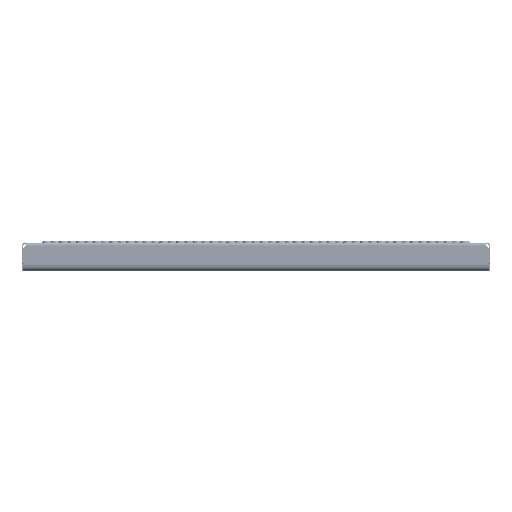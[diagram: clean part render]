
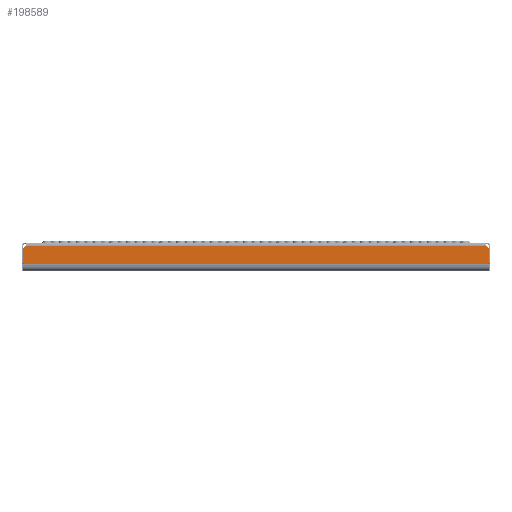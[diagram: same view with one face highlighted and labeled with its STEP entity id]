
A CAD part, top view. The second image highlights one B-rep face of the part: STEP entity #198589.
In plain terms, the highlighted planar face has unit normal (0, 0, 1).
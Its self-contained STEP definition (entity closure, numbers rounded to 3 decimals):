
#9224 = VECTOR ( 'NONE', #49652, 1000. ) ;
#11716 = DIRECTION ( 'NONE',  ( 0., -1., 0. ) ) ;
#13951 = CARTESIAN_POINT ( 'NONE',  ( 347.99, -31.998, 100. ) ) ;
#14254 = VERTEX_POINT ( 'NONE', #13951 ) ;
#24694 = VERTEX_POINT ( 'NONE', #241455 ) ;
#32803 = CARTESIAN_POINT ( 'NONE',  ( -349., -2.288, 100. ) ) ;
#34070 = CARTESIAN_POINT ( 'NONE',  ( -349., -4., 100. ) ) ;
#35543 = CARTESIAN_POINT ( 'NONE',  ( -344.302, -4., 100. ) ) ;
#44762 = CARTESIAN_POINT ( 'NONE',  ( -347.99, -7.185, 100. ) ) ;
#49652 = DIRECTION ( 'NONE',  ( 1., 0., 0. ) ) ;
#59140 = ORIENTED_EDGE ( 'NONE', *, *, #139541, .T. ) ;
#64556 = PLANE ( 'NONE',  #190778 ) ;
#65846 = AXIS2_PLACEMENT_3D ( 'NONE', #32803, #70122, #11716 ) ;
#70122 = DIRECTION ( 'NONE',  ( 0., 0., -1. ) ) ;
#72829 = ORIENTED_EDGE ( 'NONE', *, *, #140067, .F. ) ;
#81768 = VECTOR ( 'NONE', #168616, 1000. ) ;
#86831 = VECTOR ( 'NONE', #147154, 1000. ) ;
#88422 = VERTEX_POINT ( 'NONE', #232538 ) ;
#92295 = EDGE_CURVE ( 'NONE', #184919, #24694, #173057, .T. ) ;
#107400 = ORIENTED_EDGE ( 'NONE', *, *, #92295, .T. ) ;
#107923 = EDGE_CURVE ( 'NONE', #14254, #228028, #131253, .T. ) ;
#111646 = ORIENTED_EDGE ( 'NONE', *, *, #228996, .T. ) ;
#118640 = DIRECTION ( 'NONE',  ( 0., -1., 0. ) ) ;
#120523 = DIRECTION ( 'NONE',  ( 0., -1., 0. ) ) ;
#131253 = LINE ( 'NONE', #183638, #81768 ) ;
#139541 = EDGE_CURVE ( 'NONE', #24694, #151932, #215140, .T. ) ;
#140067 = EDGE_CURVE ( 'NONE', #184919, #88422, #186979, .T. ) ;
#140150 = CARTESIAN_POINT ( 'NONE',  ( -347.99, -31.998, 100. ) ) ;
#144038 = LINE ( 'NONE', #220026, #9224 ) ;
#147154 = DIRECTION ( 'NONE',  ( 1., 0., 0. ) ) ;
#147659 = CARTESIAN_POINT ( 'NONE',  ( 347.99, -7.185, 100. ) ) ;
#151106 = CIRCLE ( 'NONE', #178837, 5. ) ;
#151932 = VERTEX_POINT ( 'NONE', #140150 ) ;
#154030 = EDGE_CURVE ( 'NONE', #228028, #88422, #151106, .T. ) ;
#157824 = CARTESIAN_POINT ( 'NONE',  ( -349., 195.712, 100. ) ) ;
#168616 = DIRECTION ( 'NONE',  ( 0., 1., 0. ) ) ;
#169118 = EDGE_LOOP ( 'NONE', ( #111646, #243479, #236710, #72829, #107400, #59140 ) ) ;
#173057 = CIRCLE ( 'NONE', #65846, 5. ) ;
#178837 = AXIS2_PLACEMENT_3D ( 'NONE', #216899, #213242, #118640 ) ;
#181812 = VECTOR ( 'NONE', #120523, 1000. ) ;
#183638 = CARTESIAN_POINT ( 'NONE',  ( 347.99, -7.185, 100. ) ) ;
#184919 = VERTEX_POINT ( 'NONE', #35543 ) ;
#186979 = LINE ( 'NONE', #34070, #86831 ) ;
#190778 = AXIS2_PLACEMENT_3D ( 'NONE', #157824, #233775, #193917 ) ;
#193917 = DIRECTION ( 'NONE',  ( 0., -1., 0. ) ) ;
#198589 = ADVANCED_FACE ( 'NONE', ( #211386 ), #64556, .T. ) ;
#211386 = FACE_OUTER_BOUND ( 'NONE', #169118, .T. ) ;
#213242 = DIRECTION ( 'NONE',  ( 0., 0., -1. ) ) ;
#215140 = LINE ( 'NONE', #44762, #181812 ) ;
#216899 = CARTESIAN_POINT ( 'NONE',  ( 349., -2.288, 100. ) ) ;
#220026 = CARTESIAN_POINT ( 'NONE',  ( -347.99, -31.998, 100. ) ) ;
#228028 = VERTEX_POINT ( 'NONE', #147659 ) ;
#228996 = EDGE_CURVE ( 'NONE', #151932, #14254, #144038, .T. ) ;
#232538 = CARTESIAN_POINT ( 'NONE',  ( 344.302, -4., 100. ) ) ;
#233775 = DIRECTION ( 'NONE',  ( 0., 0., 1. ) ) ;
#236710 = ORIENTED_EDGE ( 'NONE', *, *, #154030, .T. ) ;
#241455 = CARTESIAN_POINT ( 'NONE',  ( -347.99, -7.185, 100. ) ) ;
#243479 = ORIENTED_EDGE ( 'NONE', *, *, #107923, .T. ) ;
